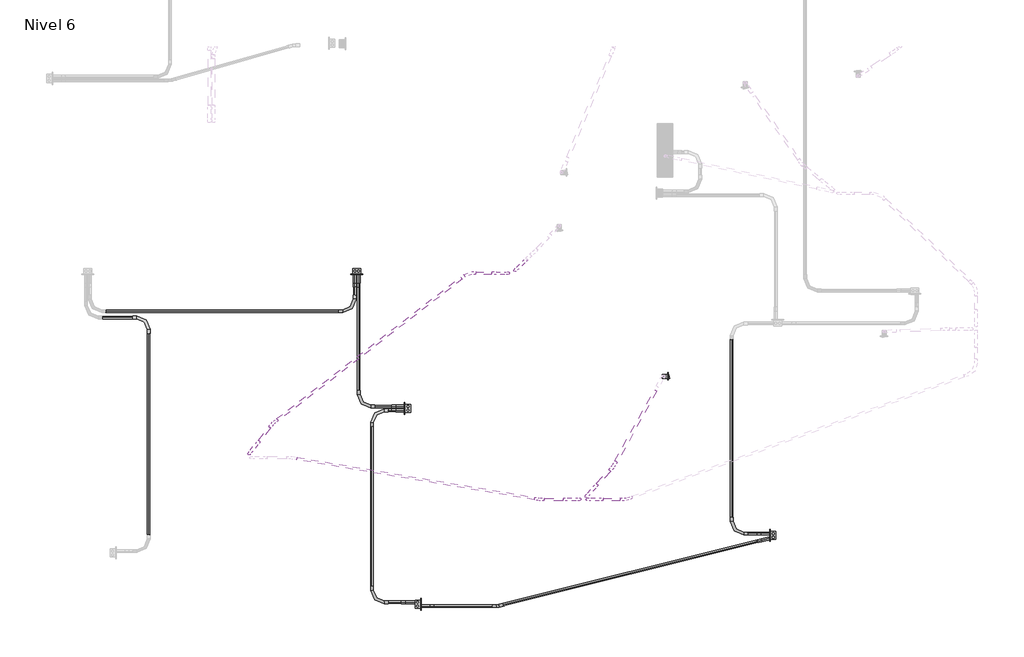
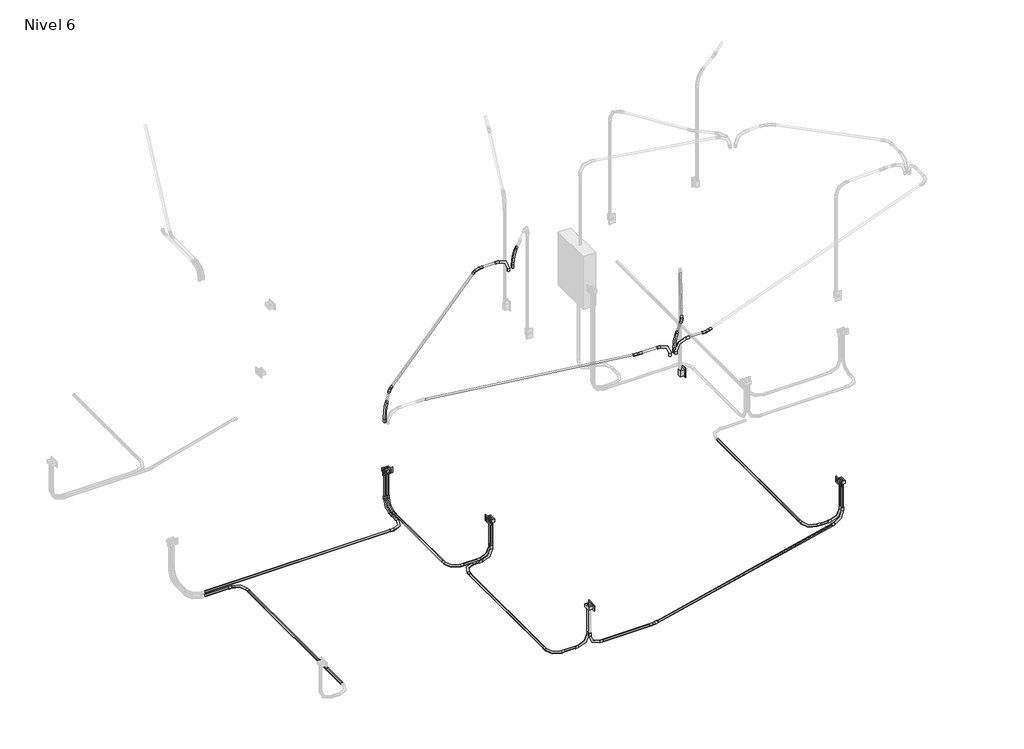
# One storey, part 3 of 9: 28 cable carrier segments, 26 cable carrier fittings, 4 proxies, 1 switching device.
"""IFC4 building model written with IfcOpenShell, lengths in millimetres."""

from ifc_helpers import new_model, si_unit, point, frame, frame_2d, origin, place, context, project, spatial, circle_curve, trimmed, segment, composite_curve, outline, extrude, transform, mapped, element, save
from components import gfci_180f1b41, m_codo_de_tubo_extremo_liso_pvc_9da73e12, m_codo_de_tubo_extremo_liso_pvc_ec2bc7bc, m_codo_de_tubo_extremo_liso_pvc_102f0f41, m_codo_de_tubo_extremo_liso_pvc_6f11b4e8, m_codo_de_tubo_extremo_liso_pvc_f661f515, m_codo_de_tubo_extremo_liso_pvc_45b9718f, m_codo_de_tubo_extremo_liso_pvc_b05ac682, m_codo_de_tubo_extremo_liso_pvc_21988e95, switching_device_22fed34b

model = new_model("IFC4")

# Units and contexts
model_context = context("Model", 3, world=origin())
ifc_project = project(units=[si_unit("LENGTHUNIT", "METRE", prefix="MILLI")], contexts=[model_context])

# Site, building, storey
site = spatial("IfcSite", under=ifc_project)
building = spatial("IfcBuilding", under=site)
storey = spatial("IfcBuildingStorey", under=building, Name="Nivel 6", Elevation=13400.0)

# Proxies
placement = place(None, origin())
gfci_shape = gfci_180f1b41(model_context)
element("IfcBuildingElementProxy", 1, Name="Tomacorriente doble 220V : GFCI", ObjectType="Tomacorriente doble 220V : GFCI", at=placement, inside=storey, context=model_context, shape_type="MappedRepresentation", body=[
    mapped(gfci_shape, transform((2410.6771813, 3735.0, 13800.0), x_axis=(0.0, 0.0, 1.0), y_axis=(-1.0, 0.0, 0.0), z_axis=(0.0, -1.0, 0.0))),
])
element("IfcBuildingElementProxy", 2, Name="Tomacorriente doble 220V : GFCI", ObjectType="Tomacorriente doble 220V : GFCI", at=placement, inside=storey, context=model_context, shape_type="MappedRepresentation", body=[
    mapped(gfci_shape, transform((2865.0, 2466.3938353, 13800.0), x_axis=(0.0, 0.0, 1.0), y_axis=(0.0, 1.0, 0.0), z_axis=(-1.0, 0.0, 0.0))),
])
element("IfcBuildingElementProxy", 3, Name="Tomacorriente doble 220V : GFCI", ObjectType="Tomacorriente doble 220V : GFCI", at=placement, inside=storey, context=model_context, shape_type="MappedRepresentation", body=[
    mapped(gfci_shape, transform((3015.0, 616.0447651, 13800.0), x_axis=(0.0, 0.0, 1.0), y_axis=(0.0, -1.0, 0.0), z_axis=(1.0, 0.0, 0.0))),
])
element("IfcBuildingElementProxy", 4, Name="Tomacorriente doble 220V : GFCI", ObjectType="Tomacorriente doble 220V : GFCI", at=placement, inside=storey, context=model_context, shape_type="MappedRepresentation", body=[
    mapped(gfci_shape, transform((6315.0, 1265.1995899, 13800.0), x_axis=(0.0, 0.0, 1.0), y_axis=(0.0, 1.0, 0.0), z_axis=(-1.0, 0.0, 0.0))),
])

# Cable carrier fittings
m_codo_de_tubo_extremo_liso_pvc_shape = m_codo_de_tubo_extremo_liso_pvc_9da73e12(model_context)
element("IfcCableCarrierFitting", 5, ObjectType="M_Codo de tubo - Extremo liso - PVC : CODO POTENCIA", at=placement, inside=storey, context=model_context, shape_type="MappedRepresentation", body=[
    mapped(m_codo_de_tubo_extremo_liso_pvc_shape, transform((445.3628882, 3324.6371118, 13330.0), x_axis=(0.0, 1.0, 0.0), y_axis=(-1.0, 0.0, 0.0), z_axis=(0.0, 0.0, 1.0))),
])
element("IfcCableCarrierFitting", 6, ObjectType="M_Codo de tubo - Extremo liso - PVC : CODO POTENCIA", at=placement, inside=storey, context=model_context, shape_type="MappedRepresentation", body=[
    mapped(m_codo_de_tubo_extremo_liso_pvc_shape, transform((2392.6453615, 3764.6371118, 13330.0), x_axis=(0.0, 0.0, -1.0), y_axis=(0.0, -1.0, 0.0), z_axis=(-1.0, 0.0, 0.0))),
])
element("IfcCableCarrierFitting", 7, ObjectType="M_Codo de tubo - Extremo liso - PVC : CODO POTENCIA", at=placement, inside=storey, context=model_context, shape_type="MappedRepresentation", body=[
    mapped(m_codo_de_tubo_extremo_liso_pvc_shape, transform((2392.6453615, 3384.6371118, 13330.0), x_axis=(1.0, 0.0, 0.0), y_axis=(0.0, 1.0, 0.0), z_axis=(0.0, 0.0, 1.0))),
])
element("IfcCableCarrierFitting", 8, ObjectType="M_Codo de tubo - Extremo liso - PVC : CODO POTENCIA", at=placement, inside=storey, context=model_context, shape_type="MappedRepresentation", body=[
    mapped(m_codo_de_tubo_extremo_liso_pvc_shape, transform((5951.3261146, 1283.2314098, 13330.0), x_axis=(0.0, -1.0, 0.0), y_axis=(1.0, 0.0, 0.0), z_axis=(0.0, 0.0, 1.0))),
])
element("IfcCableCarrierFitting", 9, ObjectType="M_Codo de tubo - Extremo liso - PVC : CODO POTENCIA", at=placement, inside=storey, context=model_context, shape_type="MappedRepresentation", body=[
    mapped(m_codo_de_tubo_extremo_liso_pvc_shape, transform((6344.6371118, 1283.2314098, 13330.0), x_axis=(0.0, 0.0, -1.0), y_axis=(-1.0, 0.0, 0.0), z_axis=(0.0, 1.0, 0.0))),
])
element("IfcCableCarrierFitting", 10, ObjectType="M_Codo de tubo - Extremo liso - PVC : CODO POTENCIA", at=placement, inside=storey, context=model_context, shape_type="MappedRepresentation", body=[
    mapped(m_codo_de_tubo_extremo_liso_pvc_shape, transform((6344.6371118, 1247.1677701, 13330.0), x_axis=(0.0, 0.0, -1.0), y_axis=(-0.9702957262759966, -0.24192189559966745, 0.0), z_axis=(-0.24192189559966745, 0.9702957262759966, 0.0))),
])
element("IfcCableCarrierFitting", 11, ObjectType="M_Codo de tubo - Extremo liso - PVC : CODO POTENCIA", at=placement, inside=storey, context=model_context, shape_type="MappedRepresentation", body=[
    mapped(m_codo_de_tubo_extremo_liso_pvc_shape, transform((2985.3628882, 598.0129453, 13330.0), x_axis=(0.0, 0.0, -1.0), y_axis=(1.0, 0.0, 0.0), z_axis=(0.0, -1.0, 0.0))),
])
element("IfcCableCarrierFitting", 12, ObjectType="M_Codo de tubo - Extremo liso - PVC : CODO POTENCIA", at=placement, inside=storey, context=model_context, shape_type="MappedRepresentation", body=[
    mapped(m_codo_de_tubo_extremo_liso_pvc_shape, transform((2985.3628882, 634.0765849, 13330.0), x_axis=(0.0, 0.0, -1.0), y_axis=(-1.0, 0.0, 0.0), z_axis=(0.0, 1.0, 0.0))),
])
element("IfcCableCarrierFitting", 13, ObjectType="M_Codo de tubo - Extremo liso - PVC : CODO POTENCIA", at=placement, inside=storey, context=model_context, shape_type="MappedRepresentation", body=[
    mapped(m_codo_de_tubo_extremo_liso_pvc_shape, transform((2894.6371118, 2448.3620154, 13330.0), x_axis=(0.0, 0.0, -1.0), y_axis=(-1.0, 0.0, 0.0), z_axis=(0.0, 1.0, 0.0))),
])
element("IfcCableCarrierFitting", 14, ObjectType="M_Codo de tubo - Extremo liso - PVC : CODO POTENCIA", at=placement, inside=storey, context=model_context, shape_type="MappedRepresentation", body=[
    mapped(m_codo_de_tubo_extremo_liso_pvc_shape, transform((2554.6371118, 634.0765849, 13330.0), x_axis=(0.0, -1.0, 0.0), y_axis=(1.0, 0.0, 0.0), z_axis=(0.0, 0.0, 1.0))),
])
element("IfcCableCarrierFitting", 15, ObjectType="M_Codo de tubo - Extremo liso - PVC : CODO POTENCIA", at=placement, inside=storey, context=model_context, shape_type="MappedRepresentation", body=[
    mapped(m_codo_de_tubo_extremo_liso_pvc_shape, transform((2554.6371118, 2448.3620154, 13330.0), x_axis=(-1.0, 0.0, 0.0), y_axis=(0.0, -1.0, 0.0), z_axis=(0.0, 0.0, 1.0))),
])
element("IfcCableCarrierFitting", 16, ObjectType="M_Codo de tubo - Extremo liso - PVC : CODO POTENCIA", at=placement, inside=storey, context=model_context, shape_type="MappedRepresentation", body=[
    mapped(m_codo_de_tubo_extremo_liso_pvc_shape, transform((2894.6371118, 2484.4256551, 13330.0), x_axis=(0.0, 0.0, -1.0), y_axis=(-1.0, 0.0, 0.0), z_axis=(0.0, 1.0, 0.0))),
])
element("IfcCableCarrierFitting", 17, ObjectType="M_Codo de tubo - Extremo liso - PVC : CODO POTENCIA", at=placement, inside=storey, context=model_context, shape_type="MappedRepresentation", body=[
    mapped(m_codo_de_tubo_extremo_liso_pvc_shape, transform((2428.7090011, 2484.4256551, 13330.0), x_axis=(0.0, -1.0, 0.0), y_axis=(1.0, 0.0, 0.0), z_axis=(0.0, 0.0, 1.0))),
])
element("IfcCableCarrierFitting", 18, ObjectType="M_Codo de tubo - Extremo liso - PVC : CODO POTENCIA", at=placement, inside=storey, context=model_context, shape_type="MappedRepresentation", body=[
    mapped(m_codo_de_tubo_extremo_liso_pvc_shape, transform((2428.7090011, 3764.6371118, 13330.0), x_axis=(0.0, 0.0, -1.0), y_axis=(0.0, -1.0, 0.0), z_axis=(-1.0, 0.0, 0.0))),
])
m_codo_de_tubo_extremo_liso_pvc_2_shape = m_codo_de_tubo_extremo_liso_pvc_ec2bc7bc(model_context)
element("IfcCableCarrierFitting", 19, ObjectType="M_Codo de tubo - Extremo liso - PVC : CODO POTENCIA", at=placement, inside=storey, context=model_context, shape_type="MappedRepresentation", body=[
    mapped(m_codo_de_tubo_extremo_liso_pvc_2_shape, transform((3741.0193173, 598.0129453, 13330.0), x_axis=(1.0, 0.0, 0.0), y_axis=(0.0, 1.0, 0.0), z_axis=(0.0, 0.0, 1.0))),
])
element("IfcCableCarrierFitting", 20, ObjectType="M_Codo de tubo - Extremo liso - PVC : CODO ILUMINACION", at=placement, inside=storey, context=model_context, shape_type="MappedRepresentation", body=[
    mapped(m_codo_de_tubo_extremo_liso_pvc_shape, transform((4587.6812569, 1605.8248925, 15950.0), x_axis=(-1.0, 0.0, 0.0), y_axis=(0.0, 0.0, -1.0), z_axis=(0.0, -1.0, 0.0))),
])
element("IfcCableCarrierFitting", 21, ObjectType="M_Codo de tubo - Extremo liso - PVC : CODO ILUMINACION", at=placement, inside=storey, context=model_context, shape_type="MappedRepresentation", body=[
    mapped(m_codo_de_tubo_extremo_liso_pvc_shape, transform((4580.1179431, 1634.6279296, 15950.0), x_axis=(-0.6691306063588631, -0.7431448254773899, 0.0), y_axis=(0.0, 0.0, -1.0000000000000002), z_axis=(0.7431448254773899, -0.6691306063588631, 0.0))),
])
element("IfcCableCarrierFitting", 22, ObjectType="M_Codo de tubo - Extremo liso - PVC : CODO ILUMINACION", at=placement, inside=storey, context=model_context, shape_type="MappedRepresentation", body=[
    mapped(m_codo_de_tubo_extremo_liso_pvc_shape, transform((3906.7168382, 3770.8469157, 15950.0), x_axis=(-0.7193398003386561, -0.6946583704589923, 0.0), y_axis=(0.0, 0.0, -1.0), z_axis=(0.6946583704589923, -0.7193398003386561, 0.0))),
])
m_codo_de_tubo_extremo_liso_pvc_3_shape = m_codo_de_tubo_extremo_liso_pvc_102f0f41(model_context)
element("IfcCableCarrierFitting", 23, ObjectType="M_Codo de tubo - Extremo liso - PVC : CODO ILUMINACION", at=placement, inside=storey, context=model_context, shape_type="MappedRepresentation", body=[
    mapped(m_codo_de_tubo_extremo_liso_pvc_3_shape, transform((3840.4966471, 3744.0922218, 15950.0), x_axis=(1.0, 0.0, 0.0), y_axis=(0.0, 0.0, 1.0), z_axis=(0.0, -1.0, 0.0))),
])
element("IfcCableCarrierFitting", 24, ObjectType="M_Codo de tubo - Extremo liso - PVC : CODO ILUMINACION", at=placement, inside=storey, context=model_context, shape_type="MappedRepresentation", body=[
    mapped(m_codo_de_tubo_extremo_liso_pvc_3_shape, transform((4515.4252624, 1605.8248925, 15950.0), x_axis=(1.0, 0.0, 0.0), y_axis=(0.0, 0.0, 1.0), z_axis=(0.0, -1.0, 0.0))),
])
element("IfcCableCarrierFitting", 25, ObjectType="M_Codo de tubo - Extremo liso - PVC : CODO ILUMINACION", at=placement, inside=storey, context=model_context, shape_type="MappedRepresentation", body=[
    mapped(m_codo_de_tubo_extremo_liso_pvc_3_shape, transform((1395.2579923, 2037.9117706, 15950.0), x_axis=(-0.6156614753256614, -0.7880107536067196, 0.0), y_axis=(0.0, 0.0, 1.0), z_axis=(-0.7880107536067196, 0.6156614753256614, 0.0))),
])
m_codo_de_tubo_extremo_liso_pvc_4_shape = m_codo_de_tubo_extremo_liso_pvc_6f11b4e8(model_context)
element("IfcCableCarrierFitting", 26, ObjectType="M_Codo de tubo - Extremo liso - PVC : CODO ILUMINACION", at=placement, inside=storey, context=model_context, shape_type="MappedRepresentation", body=[
    mapped(m_codo_de_tubo_extremo_liso_pvc_4_shape, transform((4957.7162152, 1605.8248925, 15950.0), x_axis=(1.0, 0.0, 0.0), y_axis=(0.0, 1.0, 0.0), z_axis=(0.0, 0.0, 1.0))),
])
m_codo_de_tubo_extremo_liso_pvc_5_shape = m_codo_de_tubo_extremo_liso_pvc_f661f515(model_context)
element("IfcCableCarrierFitting", 27, ObjectType="M_Codo de tubo - Extremo liso - PVC : CODO ILUMINACION", at=placement, inside=storey, context=model_context, shape_type="MappedRepresentation", body=[
    mapped(m_codo_de_tubo_extremo_liso_pvc_5_shape, transform((4134.4252624, 1605.8248925, 15950.0), x_axis=(0.9860609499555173, -0.16638450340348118, 0.0), y_axis=(0.16638450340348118, 0.9860609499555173, 0.0), z_axis=(0.0, 0.0, 1.0))),
])
m_codo_de_tubo_extremo_liso_pvc_6_shape = m_codo_de_tubo_extremo_liso_pvc_45b9718f(model_context)
element("IfcCableCarrierFitting", 28, ObjectType="M_Codo de tubo - Extremo liso - PVC : CODO ILUMINACION", at=placement, inside=storey, context=model_context, shape_type="MappedRepresentation", body=[
    mapped(m_codo_de_tubo_extremo_liso_pvc_6_shape, transform((3459.4966471, 3744.0922218, 15950.0), x_axis=(-1.0, 0.0, 0.0), y_axis=(0.0, -1.0, 0.0), z_axis=(0.0, 0.0, 1.0))),
])
m_codo_de_tubo_extremo_liso_pvc_7_shape = m_codo_de_tubo_extremo_liso_pvc_b05ac682(model_context)
element("IfcCableCarrierFitting", 29, ObjectType="M_Codo de tubo - Extremo liso - PVC : CODO ILUMINACION", at=placement, inside=storey, context=model_context, shape_type="MappedRepresentation", body=[
    mapped(m_codo_de_tubo_extremo_liso_pvc_7_shape, transform((1621.8960533, 2327.9952604, 15950.0), x_axis=(-0.792090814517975, -0.6104032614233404, 0.0), y_axis=(0.6104032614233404, -0.792090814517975, 0.0), z_axis=(0.0, 0.0, 1.0))),
])
m_codo_de_tubo_extremo_liso_pvc_8_shape = m_codo_de_tubo_extremo_liso_pvc_21988e95(model_context)
element("IfcCableCarrierFitting", 30, ObjectType="M_Codo de tubo - Extremo liso - PVC : CODO ILUMINACION", at=placement, inside=storey, context=model_context, shape_type="MappedRepresentation", body=[
    mapped(m_codo_de_tubo_extremo_liso_pvc_8_shape, transform((4835.0567041, 1917.7661081, 15950.0), x_axis=(0.6691306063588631, 0.7431448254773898, 0.0), y_axis=(-0.7431448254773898, 0.6691306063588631, 0.0), z_axis=(0.0, 0.0, 1.0))),
])

# Cable carrier segments
element("IfcCableCarrierSegment", 31, ObjectType="PVC-SEL, POTENCIA", at=placement, inside=storey, context=model_context, shape_type="SweptSolid", body=[
    extrude(outline(composite_curve([segment(trimmed(circle_curve(frame_2d((13330.0, 445.3628882)), 11.71), [point((13330.0, 457.0728882))], [point((13341.71, 445.3628882))], False, "CARTESIAN"), True, "CONTINUOUS"), segment(trimmed(circle_curve(frame_2d((13330.0, 445.3628882)), 11.71), [point((13341.71, 445.3628882))], [point((13330.0, 433.6528882))], False, "CARTESIAN"), True, "CONTINUOUS"), segment(trimmed(circle_curve(frame_2d((13330.0, 445.3628882)), 11.71), [point((13330.0, 433.6528882))], [point((13318.29, 445.3628882))], False, "CARTESIAN"), True, "CONTINUOUS"), segment(trimmed(circle_curve(frame_2d((13330.0, 445.3628882)), 11.71), [point((13318.29, 445.3628882))], [point((13330.0, 457.0728882))], False, "CARTESIAN"), True, "CONTINUOUS")], self_intersect=False)), frame((0.0, 1269.6715525, 0.0), z_axis=(0.0, 1.0, 0.0), x_axis=(0.0, 0.0, 1.0)), (0.0, 0.0, 1.0), 1902.5655593),
])
element("IfcCableCarrierSegment", 32, ObjectType="PVC-SEL, POTENCIA", at=placement, inside=storey, context=model_context, shape_type="SweptSolid", body=[
    extrude(outline(composite_curve([segment(trimmed(circle_curve(frame_2d((3384.6371118, 13330.0)), 11.71), [point((3396.3471118, 13330.0))], [point((3384.6371118, 13318.29))], False, "CARTESIAN"), True, "CONTINUOUS"), segment(trimmed(circle_curve(frame_2d((3384.6371118, 13330.0)), 11.71), [point((3384.6371118, 13318.29))], [point((3372.9271118, 13330.0))], False, "CARTESIAN"), True, "CONTINUOUS"), segment(trimmed(circle_curve(frame_2d((3384.6371118, 13330.0)), 11.71), [point((3372.9271118, 13330.0))], [point((3384.6371118, 13341.71))], False, "CARTESIAN"), True, "CONTINUOUS"), segment(trimmed(circle_curve(frame_2d((3384.6371118, 13330.0)), 11.71), [point((3384.6371118, 13341.71))], [point((3396.3471118, 13330.0))], False, "CARTESIAN"), True, "CONTINUOUS")], self_intersect=False)), frame((42.2292476, 0.0, 0.0), z_axis=(1.0, 0.0, 0.0), x_axis=(0.0, 1.0, 0.0)), (0.0, 0.0, 1.0), 2198.0161139),
])
element("IfcCableCarrierSegment", 33, ObjectType="PVC-SEL, POTENCIA", at=placement, inside=storey, context=model_context, shape_type="SweptSolid", body=[
    extrude(outline(composite_curve([segment(trimmed(circle_curve(frame_2d((3324.6371118, 13330.0)), 11.71), [point((3336.3471118, 13330.0))], [point((3324.6371118, 13318.29))], False, "CARTESIAN"), True, "CONTINUOUS"), segment(trimmed(circle_curve(frame_2d((3324.6371118, 13330.0)), 11.71), [point((3324.6371118, 13318.29))], [point((3312.9271118, 13330.0))], False, "CARTESIAN"), True, "CONTINUOUS"), segment(trimmed(circle_curve(frame_2d((3324.6371118, 13330.0)), 11.71), [point((3312.9271118, 13330.0))], [point((3324.6371118, 13341.71))], False, "CARTESIAN"), True, "CONTINUOUS"), segment(trimmed(circle_curve(frame_2d((3324.6371118, 13330.0)), 11.71), [point((3324.6371118, 13341.71))], [point((3336.3471118, 13330.0))], False, "CARTESIAN"), True, "CONTINUOUS")], self_intersect=False)), frame((6.165608, 0.0, 0.0), z_axis=(1.0, 0.0, 0.0), x_axis=(0.0, 1.0, 0.0)), (0.0, 0.0, 1.0), 286.7972803),
])
element("IfcCableCarrierSegment", 34, ObjectType="PVC-SEL, POTENCIA", at=placement, inside=storey, context=model_context, shape_type="SweptSolid", body=[
    extrude(outline(composite_curve([segment(trimmed(circle_curve(frame_2d((13330.0, 2392.6453615)), 11.71), [point((13330.0, 2380.9353615))], [point((13318.29, 2392.6453615))], False, "CARTESIAN"), True, "CONTINUOUS"), segment(trimmed(circle_curve(frame_2d((13330.0, 2392.6453615)), 11.71), [point((13318.29, 2392.6453615))], [point((13330.0, 2404.3553615))], False, "CARTESIAN"), True, "CONTINUOUS"), segment(trimmed(circle_curve(frame_2d((13330.0, 2392.6453615)), 11.71), [point((13330.0, 2404.3553615))], [point((13341.71, 2392.6453615))], False, "CARTESIAN"), True, "CONTINUOUS"), segment(trimmed(circle_curve(frame_2d((13330.0, 2392.6453615)), 11.71), [point((13341.71, 2392.6453615))], [point((13330.0, 2380.9353615))], False, "CARTESIAN"), True, "CONTINUOUS")], self_intersect=False)), frame((0.0, 3537.0371118, 0.0), z_axis=(0.0, 1.0, 0.0), x_axis=(0.0, 0.0, 1.0)), (0.0, 0.0, 1.0), 75.2),
])
element("IfcCableCarrierSegment", 35, ObjectType="PVC-SEL, POTENCIA", at=placement, inside=storey, context=model_context, shape_type="SweptSolid", body=[
    extrude(outline(composite_curve([segment(trimmed(circle_curve(frame_2d((2392.6453615, 3764.6371118)), 11.71), [point((2404.3553615, 3764.6371118))], [point((2392.6453615, 3752.9271118))], False, "CARTESIAN"), True, "CONTINUOUS"), segment(trimmed(circle_curve(frame_2d((2392.6453615, 3764.6371118)), 11.71), [point((2392.6453615, 3752.9271118))], [point((2380.9353615, 3764.6371118))], False, "CARTESIAN"), True, "CONTINUOUS"), segment(trimmed(circle_curve(frame_2d((2392.6453615, 3764.6371118)), 11.71), [point((2380.9353615, 3764.6371118))], [point((2392.6453615, 3776.3471118))], False, "CARTESIAN"), True, "CONTINUOUS"), segment(trimmed(circle_curve(frame_2d((2392.6453615, 3764.6371118)), 11.71), [point((2392.6453615, 3776.3471118))], [point((2404.3553615, 3764.6371118))], False, "CARTESIAN"), True, "CONTINUOUS")], self_intersect=False)), frame((0.0, 0.0, 13482.4), z_axis=(0.0, 0.0, 1.0), x_axis=(1.0, 0.0, 0.0)), (0.0, 0.0, 1.0), 297.3020537),
])
element("IfcCableCarrierSegment", 36, ObjectType="PVC-SEL, POTENCIA", at=placement, inside=storey, context=model_context, shape_type="SweptSolid", body=[
    extrude(outline(composite_curve([segment(trimmed(circle_curve(frame_2d((2428.7090011, 3764.6371118)), 11.71), [point((2440.4190011, 3764.6371118))], [point((2428.7090011, 3752.9271118))], False, "CARTESIAN"), True, "CONTINUOUS"), segment(trimmed(circle_curve(frame_2d((2428.7090011, 3764.6371118)), 11.71), [point((2428.7090011, 3752.9271118))], [point((2416.9990011, 3764.6371118))], False, "CARTESIAN"), True, "CONTINUOUS"), segment(trimmed(circle_curve(frame_2d((2428.7090011, 3764.6371118)), 11.71), [point((2416.9990011, 3764.6371118))], [point((2428.7090011, 3776.3471118))], False, "CARTESIAN"), True, "CONTINUOUS"), segment(trimmed(circle_curve(frame_2d((2428.7090011, 3764.6371118)), 11.71), [point((2428.7090011, 3776.3471118))], [point((2440.4190011, 3764.6371118))], False, "CARTESIAN"), True, "CONTINUOUS")], self_intersect=False)), frame((0.0, 0.0, 13482.4), z_axis=(0.0, 0.0, 1.0), x_axis=(1.0, 0.0, 0.0)), (0.0, 0.0, 1.0), 297.3020537),
])
element("IfcCableCarrierSegment", 37, ObjectType="PVC-SEL, POTENCIA", at=placement, inside=storey, context=model_context, shape_type="SweptSolid", body=[
    extrude(outline(composite_curve([segment(trimmed(circle_curve(frame_2d((13330.0, 5951.3261146)), 11.71), [point((13330.0, 5939.6161146))], [point((13318.29, 5951.3261146))], False, "CARTESIAN"), True, "CONTINUOUS"), segment(trimmed(circle_curve(frame_2d((13330.0, 5951.3261146)), 11.71), [point((13318.29, 5951.3261146))], [point((13330.0, 5963.0361146))], False, "CARTESIAN"), True, "CONTINUOUS"), segment(trimmed(circle_curve(frame_2d((13330.0, 5951.3261146)), 11.71), [point((13330.0, 5963.0361146))], [point((13341.71, 5951.3261146))], False, "CARTESIAN"), True, "CONTINUOUS"), segment(trimmed(circle_curve(frame_2d((13330.0, 5951.3261146)), 11.71), [point((13341.71, 5951.3261146))], [point((13330.0, 5939.6161146))], False, "CARTESIAN"), True, "CONTINUOUS")], self_intersect=False)), frame((0.0, 1435.6314098, 0.0), z_axis=(0.0, 1.0, 0.0), x_axis=(0.0, 0.0, 1.0)), (0.0, 0.0, 1.0), 1681.1445999),
])
element("IfcCableCarrierSegment", 38, ObjectType="PVC-SEL, POTENCIA", at=placement, inside=storey, context=model_context, shape_type="SweptSolid", body=[
    extrude(outline(composite_curve([segment(trimmed(circle_curve(frame_2d((1283.2314098, 13330.0)), 11.71), [point((1271.5214098, 13330.0))], [point((1283.2314098, 13341.71))], False, "CARTESIAN"), True, "CONTINUOUS"), segment(trimmed(circle_curve(frame_2d((1283.2314098, 13330.0)), 11.71), [point((1283.2314098, 13341.71))], [point((1294.9414098, 13330.0))], False, "CARTESIAN"), True, "CONTINUOUS"), segment(trimmed(circle_curve(frame_2d((1283.2314098, 13330.0)), 11.71), [point((1294.9414098, 13330.0))], [point((1283.2314098, 13318.29))], False, "CARTESIAN"), True, "CONTINUOUS"), segment(trimmed(circle_curve(frame_2d((1283.2314098, 13330.0)), 11.71), [point((1283.2314098, 13318.29))], [point((1271.5214098, 13330.0))], False, "CARTESIAN"), True, "CONTINUOUS")], self_intersect=False)), frame((6103.7261146, 0.0, 0.0), z_axis=(1.0, 0.0, 0.0), x_axis=(0.0, 1.0, 0.0)), (0.0, 0.0, 1.0), 88.5109971),
])
element("IfcCableCarrierSegment", 39, ObjectType="PVC-SEL, POTENCIA", at=placement, inside=storey, context=model_context, shape_type="SweptSolid", body=[
    extrude(outline(composite_curve([segment(trimmed(circle_curve(frame_2d((6344.6371118, 1283.2314098)), 11.71), [point((6356.3471118, 1283.2314098))], [point((6344.6371118, 1271.5214098))], False, "CARTESIAN"), True, "CONTINUOUS"), segment(trimmed(circle_curve(frame_2d((6344.6371118, 1283.2314098)), 11.71), [point((6344.6371118, 1271.5214098))], [point((6332.9271118, 1283.2314098))], False, "CARTESIAN"), True, "CONTINUOUS"), segment(trimmed(circle_curve(frame_2d((6344.6371118, 1283.2314098)), 11.71), [point((6332.9271118, 1283.2314098))], [point((6344.6371118, 1294.9414098))], False, "CARTESIAN"), True, "CONTINUOUS"), segment(trimmed(circle_curve(frame_2d((6344.6371118, 1283.2314098)), 11.71), [point((6344.6371118, 1294.9414098))], [point((6356.3471118, 1283.2314098))], False, "CARTESIAN"), True, "CONTINUOUS")], self_intersect=False)), frame((0.0, 0.0, 13482.4), z_axis=(0.0, 0.0, 1.0), x_axis=(1.0, 0.0, 0.0)), (0.0, 0.0, 1.0), 297.3020537),
])
element("IfcCableCarrierSegment", 40, ObjectType="PVC-SEL, POTENCIA", at=placement, inside=storey, context=model_context, shape_type="SweptSolid", body=[
    extrude(outline(composite_curve([segment(trimmed(circle_curve(frame_2d((0.0, -11.71)), 11.71), [point((-11.7099999, -11.71))], [point((0.0, 0.0))], False, "CARTESIAN"), True, "CONTINUOUS"), segment(trimmed(circle_curve(frame_2d((0.0, -11.71)), 11.71), [point((0.0, 0.0))], [point((11.71, -11.71))], False, "CARTESIAN"), True, "CONTINUOUS"), segment(trimmed(circle_curve(frame_2d((0.0, -11.71)), 11.71), [point((11.71, -11.71))], [point((0.0, -23.42))], False, "CARTESIAN"), True, "CONTINUOUS"), segment(trimmed(circle_curve(frame_2d((0.0, -11.71)), 11.71), [point((0.0, -23.42))], [point((-11.7099999, -11.71))], False, "CARTESIAN"), True, "CONTINUOUS")], self_intersect=False)), frame((3791.6049818, 610.625368, 13318.29), z_axis=(0.9702957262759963, 0.24192189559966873, 0.0), x_axis=(0.24192189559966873, -0.9702957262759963, 0.0)), (0.0, 0.0, 1.0), 2478.7897093),
])
element("IfcCableCarrierSegment", 41, ObjectType="PVC-SEL, POTENCIA", at=placement, inside=storey, context=model_context, shape_type="SweptSolid", body=[
    extrude(outline(composite_curve([segment(trimmed(circle_curve(frame_2d((6344.6371118, 1247.1677701)), 11.71), [point((6356.3471118, 1247.1677701))], [point((6344.6371118, 1235.4577701))], False, "CARTESIAN"), True, "CONTINUOUS"), segment(trimmed(circle_curve(frame_2d((6344.6371118, 1247.1677701)), 11.71), [point((6344.6371118, 1235.4577701))], [point((6332.9271118, 1247.1677701))], False, "CARTESIAN"), True, "CONTINUOUS"), segment(trimmed(circle_curve(frame_2d((6344.6371118, 1247.1677701)), 11.71), [point((6332.9271118, 1247.1677701))], [point((6344.6371118, 1258.8777701))], False, "CARTESIAN"), True, "CONTINUOUS"), segment(trimmed(circle_curve(frame_2d((6344.6371118, 1247.1677701)), 11.71), [point((6344.6371118, 1258.8777701))], [point((6356.3471118, 1247.1677701))], False, "CARTESIAN"), True, "CONTINUOUS")], self_intersect=False)), frame((0.0, 0.0, 13482.4), z_axis=(0.0, 0.0, 1.0), x_axis=(1.0, 0.0, 0.0)), (0.0, 0.0, 1.0), 297.3020537),
])
element("IfcCableCarrierSegment", 42, ObjectType="PVC-SEL, POTENCIA", at=placement, inside=storey, context=model_context, shape_type="SweptSolid", body=[
    extrude(outline(composite_curve([segment(trimmed(circle_curve(frame_2d((598.0129453, 13330.0)), 11.71), [point((609.7229453, 13330.0))], [point((598.0129453, 13318.29))], False, "CARTESIAN"), True, "CONTINUOUS"), segment(trimmed(circle_curve(frame_2d((598.0129453, 13330.0)), 11.71), [point((598.0129453, 13318.29))], [point((586.3029453, 13330.0))], False, "CARTESIAN"), True, "CONTINUOUS"), segment(trimmed(circle_curve(frame_2d((598.0129453, 13330.0)), 11.71), [point((586.3029453, 13330.0))], [point((598.0129453, 13341.71))], False, "CARTESIAN"), True, "CONTINUOUS"), segment(trimmed(circle_curve(frame_2d((598.0129453, 13330.0)), 11.71), [point((598.0129453, 13341.71))], [point((609.7229453, 13330.0))], False, "CARTESIAN"), True, "CONTINUOUS")], self_intersect=False)), frame((3137.7628882, 0.0, 0.0), z_axis=(1.0, 0.0, 0.0), x_axis=(0.0, 1.0, 0.0)), (0.0, 0.0, 1.0), 551.1221538),
])
element("IfcCableCarrierSegment", 43, ObjectType="PVC-SEL, POTENCIA", at=placement, inside=storey, context=model_context, shape_type="SweptSolid", body=[
    extrude(outline(composite_curve([segment(trimmed(circle_curve(frame_2d((2985.3628882, 634.0765849)), 11.71), [point((2997.0728882, 634.0765849))], [point((2985.3628882, 622.3665849))], False, "CARTESIAN"), True, "CONTINUOUS"), segment(trimmed(circle_curve(frame_2d((2985.3628882, 634.0765849)), 11.71), [point((2985.3628882, 622.3665849))], [point((2973.6528882, 634.0765849))], False, "CARTESIAN"), True, "CONTINUOUS"), segment(trimmed(circle_curve(frame_2d((2985.3628882, 634.0765849)), 11.71), [point((2973.6528882, 634.0765849))], [point((2985.3628882, 645.7865849))], False, "CARTESIAN"), True, "CONTINUOUS"), segment(trimmed(circle_curve(frame_2d((2985.3628882, 634.0765849)), 11.71), [point((2985.3628882, 645.7865849))], [point((2997.0728882, 634.0765849))], False, "CARTESIAN"), True, "CONTINUOUS")], self_intersect=False)), frame((0.0, 0.0, 13482.4), z_axis=(0.0, 0.0, 1.0), x_axis=(1.0, 0.0, 0.0)), (0.0, 0.0, 1.0), 297.3020537),
])
element("IfcCableCarrierSegment", 44, ObjectType="PVC-SEL, POTENCIA", at=placement, inside=storey, context=model_context, shape_type="SweptSolid", body=[
    extrude(outline(composite_curve([segment(trimmed(circle_curve(frame_2d((634.0765849, 13330.0)), 11.71), [point((645.7865849, 13330.0))], [point((634.0765849, 13318.29))], False, "CARTESIAN"), True, "CONTINUOUS"), segment(trimmed(circle_curve(frame_2d((634.0765849, 13330.0)), 11.71), [point((634.0765849, 13318.29))], [point((622.3665849, 13330.0))], False, "CARTESIAN"), True, "CONTINUOUS"), segment(trimmed(circle_curve(frame_2d((634.0765849, 13330.0)), 11.71), [point((622.3665849, 13330.0))], [point((634.0765849, 13341.71))], False, "CARTESIAN"), True, "CONTINUOUS"), segment(trimmed(circle_curve(frame_2d((634.0765849, 13330.0)), 11.71), [point((634.0765849, 13341.71))], [point((645.7865849, 13330.0))], False, "CARTESIAN"), True, "CONTINUOUS")], self_intersect=False)), frame((2707.0371118, 0.0, 0.0), z_axis=(1.0, 0.0, 0.0), x_axis=(0.0, 1.0, 0.0)), (0.0, 0.0, 1.0), 125.9257764),
])
element("IfcCableCarrierSegment", 45, ObjectType="PVC-SEL, POTENCIA", at=placement, inside=storey, context=model_context, shape_type="SweptSolid", body=[
    extrude(outline(composite_curve([segment(trimmed(circle_curve(frame_2d((13330.0, 2554.6371118)), 11.71), [point((13330.0, 2566.3471118))], [point((13341.71, 2554.6371118))], False, "CARTESIAN"), True, "CONTINUOUS"), segment(trimmed(circle_curve(frame_2d((13330.0, 2554.6371118)), 11.71), [point((13341.71, 2554.6371118))], [point((13330.0, 2542.9271118))], False, "CARTESIAN"), True, "CONTINUOUS"), segment(trimmed(circle_curve(frame_2d((13330.0, 2554.6371118)), 11.71), [point((13330.0, 2542.9271118))], [point((13318.29, 2554.6371118))], False, "CARTESIAN"), True, "CONTINUOUS"), segment(trimmed(circle_curve(frame_2d((13330.0, 2554.6371118)), 11.71), [point((13318.29, 2554.6371118))], [point((13330.0, 2566.3471118))], False, "CARTESIAN"), True, "CONTINUOUS")], self_intersect=False)), frame((0.0, 786.4765849, 0.0), z_axis=(0.0, 1.0, 0.0), x_axis=(0.0, 0.0, 1.0)), (0.0, 0.0, 1.0), 1509.4854306),
])
element("IfcCableCarrierSegment", 46, ObjectType="PVC-SEL, POTENCIA", at=placement, inside=storey, context=model_context, shape_type="SweptSolid", body=[
    extrude(outline(composite_curve([segment(trimmed(circle_curve(frame_2d((2448.3620154, 13330.0)), 11.71), [point((2460.0720154, 13330.0))], [point((2448.3620154, 13318.29))], False, "CARTESIAN"), True, "CONTINUOUS"), segment(trimmed(circle_curve(frame_2d((2448.3620154, 13330.0)), 11.71), [point((2448.3620154, 13318.29))], [point((2436.6520154, 13330.0))], False, "CARTESIAN"), True, "CONTINUOUS"), segment(trimmed(circle_curve(frame_2d((2448.3620154, 13330.0)), 11.71), [point((2436.6520154, 13330.0))], [point((2448.3620154, 13341.71))], False, "CARTESIAN"), True, "CONTINUOUS"), segment(trimmed(circle_curve(frame_2d((2448.3620154, 13330.0)), 11.71), [point((2448.3620154, 13341.71))], [point((2460.0720154, 13330.0))], False, "CARTESIAN"), True, "CONTINUOUS")], self_intersect=False)), frame((2707.0371118, 0.0, 0.0), z_axis=(1.0, 0.0, 0.0), x_axis=(0.0, 1.0, 0.0)), (0.0, 0.0, 1.0), 35.2),
])
element("IfcCableCarrierSegment", 47, ObjectType="PVC-SEL, POTENCIA", at=placement, inside=storey, context=model_context, shape_type="SweptSolid", body=[
    extrude(outline(composite_curve([segment(trimmed(circle_curve(frame_2d((2894.6371118, 2448.3620154)), 11.71), [point((2906.3471118, 2448.3620154))], [point((2894.6371118, 2436.6520154))], False, "CARTESIAN"), True, "CONTINUOUS"), segment(trimmed(circle_curve(frame_2d((2894.6371118, 2448.3620154)), 11.71), [point((2894.6371118, 2436.6520154))], [point((2882.9271118, 2448.3620154))], False, "CARTESIAN"), True, "CONTINUOUS"), segment(trimmed(circle_curve(frame_2d((2894.6371118, 2448.3620154)), 11.71), [point((2882.9271118, 2448.3620154))], [point((2894.6371118, 2460.0720154))], False, "CARTESIAN"), True, "CONTINUOUS"), segment(trimmed(circle_curve(frame_2d((2894.6371118, 2448.3620154)), 11.71), [point((2894.6371118, 2460.0720154))], [point((2906.3471118, 2448.3620154))], False, "CARTESIAN"), True, "CONTINUOUS")], self_intersect=False)), frame((0.0, 0.0, 13482.4), z_axis=(0.0, 0.0, 1.0), x_axis=(1.0, 0.0, 0.0)), (0.0, 0.0, 1.0), 297.3020537),
])
element("IfcCableCarrierSegment", 48, ObjectType="PVC-SEL, POTENCIA", at=placement, inside=storey, context=model_context, shape_type="SweptSolid", body=[
    extrude(outline(composite_curve([segment(trimmed(circle_curve(frame_2d((2484.4256551, 13330.0)), 11.71), [point((2496.1356551, 13330.0))], [point((2484.4256551, 13318.29))], False, "CARTESIAN"), True, "CONTINUOUS"), segment(trimmed(circle_curve(frame_2d((2484.4256551, 13330.0)), 11.71), [point((2484.4256551, 13318.29))], [point((2472.7156551, 13330.0))], False, "CARTESIAN"), True, "CONTINUOUS"), segment(trimmed(circle_curve(frame_2d((2484.4256551, 13330.0)), 11.71), [point((2472.7156551, 13330.0))], [point((2484.4256551, 13341.71))], False, "CARTESIAN"), True, "CONTINUOUS"), segment(trimmed(circle_curve(frame_2d((2484.4256551, 13330.0)), 11.71), [point((2484.4256551, 13341.71))], [point((2496.1356551, 13330.0))], False, "CARTESIAN"), True, "CONTINUOUS")], self_intersect=False)), frame((2581.1090011, 0.0, 0.0), z_axis=(1.0, 0.0, 0.0), x_axis=(0.0, 1.0, 0.0)), (0.0, 0.0, 1.0), 161.1281107),
])
element("IfcCableCarrierSegment", 49, ObjectType="PVC-SEL, POTENCIA", at=placement, inside=storey, context=model_context, shape_type="SweptSolid", body=[
    extrude(outline(composite_curve([segment(trimmed(circle_curve(frame_2d((2894.6371118, 2484.4256551)), 11.71), [point((2906.3471118, 2484.4256551))], [point((2894.6371118, 2472.7156551))], False, "CARTESIAN"), True, "CONTINUOUS"), segment(trimmed(circle_curve(frame_2d((2894.6371118, 2484.4256551)), 11.71), [point((2894.6371118, 2472.7156551))], [point((2882.9271118, 2484.4256551))], False, "CARTESIAN"), True, "CONTINUOUS"), segment(trimmed(circle_curve(frame_2d((2894.6371118, 2484.4256551)), 11.71), [point((2882.9271118, 2484.4256551))], [point((2894.6371118, 2496.1356551))], False, "CARTESIAN"), True, "CONTINUOUS"), segment(trimmed(circle_curve(frame_2d((2894.6371118, 2484.4256551)), 11.71), [point((2894.6371118, 2496.1356551))], [point((2906.3471118, 2484.4256551))], False, "CARTESIAN"), True, "CONTINUOUS")], self_intersect=False)), frame((0.0, 0.0, 13482.4), z_axis=(0.0, 0.0, 1.0), x_axis=(1.0, 0.0, 0.0)), (0.0, 0.0, 1.0), 297.3020537),
])
element("IfcCableCarrierSegment", 50, ObjectType="PVC-SEL, POTENCIA", at=placement, inside=storey, context=model_context, shape_type="SweptSolid", body=[
    extrude(outline(composite_curve([segment(trimmed(circle_curve(frame_2d((13330.0, 2428.7090011)), 11.71), [point((13330.0, 2440.4190011))], [point((13341.71, 2428.7090011))], False, "CARTESIAN"), True, "CONTINUOUS"), segment(trimmed(circle_curve(frame_2d((13330.0, 2428.7090011)), 11.71), [point((13341.71, 2428.7090011))], [point((13330.0, 2416.9990011))], False, "CARTESIAN"), True, "CONTINUOUS"), segment(trimmed(circle_curve(frame_2d((13330.0, 2428.7090011)), 11.71), [point((13330.0, 2416.9990011))], [point((13318.29, 2428.7090011))], False, "CARTESIAN"), True, "CONTINUOUS"), segment(trimmed(circle_curve(frame_2d((13330.0, 2428.7090011)), 11.71), [point((13318.29, 2428.7090011))], [point((13330.0, 2440.4190011))], False, "CARTESIAN"), True, "CONTINUOUS")], self_intersect=False)), frame((0.0, 2636.8256551, 0.0), z_axis=(0.0, 1.0, 0.0), x_axis=(0.0, 0.0, 1.0)), (0.0, 0.0, 1.0), 975.4114567),
])
element("IfcCableCarrierSegment", 51, ObjectType="PVC-SEL ILUMINACION", at=placement, inside=storey, context=model_context, shape_type="SweptSolid", body=[
    extrude(outline(composite_curve([segment(trimmed(circle_curve(frame_2d((1605.8248925, 15950.0)), 11.71), [point((1594.1148925, 15950.0))], [point((1605.8248925, 15961.71))], False, "CARTESIAN"), True, "CONTINUOUS"), segment(trimmed(circle_curve(frame_2d((1605.8248925, 15950.0)), 11.71), [point((1605.8248925, 15961.71))], [point((1617.5348925, 15950.0))], False, "CARTESIAN"), True, "CONTINUOUS"), segment(trimmed(circle_curve(frame_2d((1605.8248925, 15950.0)), 11.71), [point((1617.5348925, 15950.0))], [point((1605.8248925, 15938.29))], False, "CARTESIAN"), True, "CONTINUOUS"), segment(trimmed(circle_curve(frame_2d((1605.8248925, 15950.0)), 11.71), [point((1605.8248925, 15938.29))], [point((1594.1148925, 15950.0))], False, "CARTESIAN"), True, "CONTINUOUS")], self_intersect=False)), frame((4740.0812569, 0.0, 0.0), z_axis=(1.0, 0.0, 0.0), x_axis=(0.0, 1.0, 0.0)), (0.0, 0.0, 1.0), 159.2709241),
])
element("IfcCableCarrierSegment", 52, ObjectType="PVC-SEL ILUMINACION", at=placement, inside=storey, context=model_context, shape_type="SweptSolid", body=[
    extrude(outline(composite_curve([segment(trimmed(circle_curve(frame_2d((0.0, 11.71)), 11.71), [point((11.71, 11.71))], [point((0.0, 0.0))], False, "CARTESIAN"), True, "CONTINUOUS"), segment(trimmed(circle_curve(frame_2d((0.0, 11.71)), 11.71), [point((0.0, 0.0))], [point((-11.7100001, 11.71))], False, "CARTESIAN"), True, "CONTINUOUS"), segment(trimmed(circle_curve(frame_2d((0.0, 11.71)), 11.71), [point((-11.7100001, 11.71))], [point((0.0, 23.42))], False, "CARTESIAN"), True, "CONTINUOUS"), segment(trimmed(circle_curve(frame_2d((0.0, 11.71)), 11.71), [point((0.0, 23.42))], [point((11.71, 11.71))], False, "CARTESIAN"), True, "CONTINUOUS")], self_intersect=False)), frame((4087.4142033, 1613.7573755, 15961.71), z_axis=(-0.986060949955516, 0.1663845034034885, 0.0), x_axis=(0.1663845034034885, 0.986060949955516, 0.0)), (0.0, 0.0, 1.0), 2273.094456),
])
element("IfcCableCarrierSegment", 53, ObjectType="PVC-SEL ILUMINACION", at=placement, inside=storey, context=model_context, shape_type="SweptSolid", body=[
    extrude(outline(composite_curve([segment(trimmed(circle_curve(frame_2d((1605.8248925, 15950.0)), 11.71), [point((1617.5348925, 15950.0))], [point((1605.8248925, 15938.29))], False, "CARTESIAN"), True, "CONTINUOUS"), segment(trimmed(circle_curve(frame_2d((1605.8248925, 15950.0)), 11.71), [point((1605.8248925, 15938.29))], [point((1594.1148925, 15950.0))], False, "CARTESIAN"), True, "CONTINUOUS"), segment(trimmed(circle_curve(frame_2d((1605.8248925, 15950.0)), 11.71), [point((1594.1148925, 15950.0))], [point((1605.8248925, 15961.71))], False, "CARTESIAN"), True, "CONTINUOUS"), segment(trimmed(circle_curve(frame_2d((1605.8248925, 15950.0)), 11.71), [point((1605.8248925, 15961.71))], [point((1617.5348925, 15950.0))], False, "CARTESIAN"), True, "CONTINUOUS")], self_intersect=False)), frame((4182.1008743, 0.0, 0.0), z_axis=(1.0, 0.0, 0.0), x_axis=(0.0, 1.0, 0.0)), (0.0, 0.0, 1.0), 180.9243882),
])
element("IfcCableCarrierSegment", 54, ObjectType="PVC-SEL ILUMINACION", at=placement, inside=storey, context=model_context, shape_type="SweptSolid", body=[
    extrude(outline(composite_curve([segment(trimmed(circle_curve(frame_2d((0.0, -11.71)), 11.71), [point((-11.71, -11.71))], [point((0.0, 0.0))], False, "CARTESIAN"), True, "CONTINUOUS"), segment(trimmed(circle_curve(frame_2d((0.0, -11.71)), 11.71), [point((0.0, 0.0))], [point((11.7100001, -11.71))], False, "CARTESIAN"), True, "CONTINUOUS"), segment(trimmed(circle_curve(frame_2d((0.0, -11.71)), 11.71), [point((11.7100001, -11.71))], [point((0.0, -23.42))], False, "CARTESIAN"), True, "CONTINUOUS"), segment(trimmed(circle_curve(frame_2d((0.0, -11.71)), 11.71), [point((0.0, -23.42))], [point((-11.71, -11.71))], False, "CARTESIAN"), True, "CONTINUOUS")], self_intersect=False)), frame((1663.497084, 2360.0539642, 15938.29), z_axis=(0.7920908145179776, 0.6104032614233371, 0.0), x_axis=(0.6104032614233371, -0.7920908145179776, 0.0)), (0.0, 0.0, 1.0), 2190.3845507),
])
element("IfcCableCarrierSegment", 55, ObjectType="PVC-SEL ILUMINACION", at=placement, inside=storey, context=model_context, shape_type="SweptSolid", body=[
    extrude(outline(composite_curve([segment(trimmed(circle_curve(frame_2d((0.0, 11.71)), 11.71), [point((11.7100001, 11.71))], [point((0.0, 0.0))], False, "CARTESIAN"), True, "CONTINUOUS"), segment(trimmed(circle_curve(frame_2d((0.0, 11.71)), 11.71), [point((0.0, 0.0))], [point((-11.7099999, 11.71))], False, "CARTESIAN"), True, "CONTINUOUS"), segment(trimmed(circle_curve(frame_2d((0.0, 11.71)), 11.71), [point((-11.7099999, 11.71))], [point((0.0, 23.42))], False, "CARTESIAN"), True, "CONTINUOUS"), segment(trimmed(circle_curve(frame_2d((0.0, 11.71)), 11.71), [point((0.0, 23.42))], [point((11.7100001, 11.71))], False, "CARTESIAN"), True, "CONTINUOUS")], self_intersect=False)), frame((1489.0848011, 2158.0046095, 15961.71), z_axis=(0.6156614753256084, 0.7880107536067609, 0.0), x_axis=(0.7880107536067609, -0.6156614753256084, 0.0)), (0.0, 0.0, 1.0), 163.2007008),
])
element("IfcCableCarrierSegment", 56, ObjectType="PVC-SEL ILUMINACION", at=placement, inside=storey, context=model_context, shape_type="SweptSolid", body=[
    extrude(outline(composite_curve([segment(trimmed(circle_curve(frame_2d((3744.0922218, 15950.0)), 11.71), [point((3755.8022218, 15950.0))], [point((3744.0922218, 15938.29))], False, "CARTESIAN"), True, "CONTINUOUS"), segment(trimmed(circle_curve(frame_2d((3744.0922218, 15950.0)), 11.71), [point((3744.0922218, 15938.29))], [point((3732.3822218, 15950.0))], False, "CARTESIAN"), True, "CONTINUOUS"), segment(trimmed(circle_curve(frame_2d((3744.0922218, 15950.0)), 11.71), [point((3732.3822218, 15950.0))], [point((3744.0922218, 15961.71))], False, "CARTESIAN"), True, "CONTINUOUS"), segment(trimmed(circle_curve(frame_2d((3744.0922218, 15950.0)), 11.71), [point((3744.0922218, 15961.71))], [point((3755.8022218, 15950.0))], False, "CARTESIAN"), True, "CONTINUOUS")], self_intersect=False)), frame((3536.5283197, 0.0, 0.0), z_axis=(1.0, 0.0, 0.0), x_axis=(0.0, 1.0, 0.0)), (0.0, 0.0, 1.0), 151.5683274),
])
element("IfcCableCarrierSegment", 57, ObjectType="PVC-SEL ILUMINACION", at=placement, inside=storey, context=model_context, shape_type="SweptSolid", body=[
    extrude(outline(composite_curve([segment(trimmed(circle_curve(frame_2d((0.0, 11.71)), 11.71), [point((11.71, 11.71))], [point((0.0, 0.0))], False, "CARTESIAN"), True, "CONTINUOUS"), segment(trimmed(circle_curve(frame_2d((0.0, 11.71)), 11.71), [point((0.0, 0.0))], [point((-11.71, 11.71))], False, "CARTESIAN"), True, "CONTINUOUS"), segment(trimmed(circle_curve(frame_2d((0.0, 11.71)), 11.71), [point((-11.71, 11.71))], [point((0.0, 23.42))], False, "CARTESIAN"), True, "CONTINUOUS"), segment(trimmed(circle_curve(frame_2d((0.0, 11.71)), 11.71), [point((0.0, 23.42))], [point((11.71, 11.71))], False, "CARTESIAN"), True, "CONTINUOUS")], self_intersect=False)), frame((4859.6993458, 1963.1048519, 15961.71), z_axis=(0.48638131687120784, 0.8737466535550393, 0.0), x_axis=(0.8737466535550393, -0.48638131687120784, 0.0)), (0.0, 0.0, 1.0), 769.9277213),
])
element("IfcCableCarrierSegment", 58, ObjectType="PVC-SEL ILUMINACION", at=placement, inside=storey, context=model_context, shape_type="SweptSolid", body=[
    extrude(outline(composite_curve([segment(trimmed(circle_curve(frame_2d((0.0, 11.71)), 11.71), [point((11.71, 11.71))], [point((0.0, 0.0))], False, "CARTESIAN"), True, "CONTINUOUS"), segment(trimmed(circle_curve(frame_2d((0.0, 11.71)), 11.71), [point((0.0, 0.0))], [point((-11.71, 11.71))], False, "CARTESIAN"), True, "CONTINUOUS"), segment(trimmed(circle_curve(frame_2d((0.0, 11.71)), 11.71), [point((-11.71, 11.71))], [point((0.0, 23.42))], False, "CARTESIAN"), True, "CONTINUOUS"), segment(trimmed(circle_curve(frame_2d((0.0, 11.71)), 11.71), [point((0.0, 23.42))], [point((11.71, 11.71))], False, "CARTESIAN"), True, "CONTINUOUS")], self_intersect=False)), frame((4682.0934475, 1747.883201, 15961.71), z_axis=(0.6691306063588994, 0.7431448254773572, 0.0), x_axis=(0.7431448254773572, -0.6691306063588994, 0.0)), (0.0, 0.0, 1.0), 176.9970789),
])

# Switching device
switching_device_shape = switching_device_22fed34b(model_context)
element("IfcSwitchingDevice", 59, ObjectType="Interruptor : Tridireccional", at=placement, inside=storey, context=model_context, shape_type="MappedRepresentation", body=[
    mapped(switching_device_shape, transform((5350.094316, 2769.7763396, 14600.0), x_axis=(0.0, 1.0, 0.0), y_axis=(0.0, 0.0, 1.0), z_axis=(1.0, 0.0, 0.0))),
])

save(model, "model.ifc")
